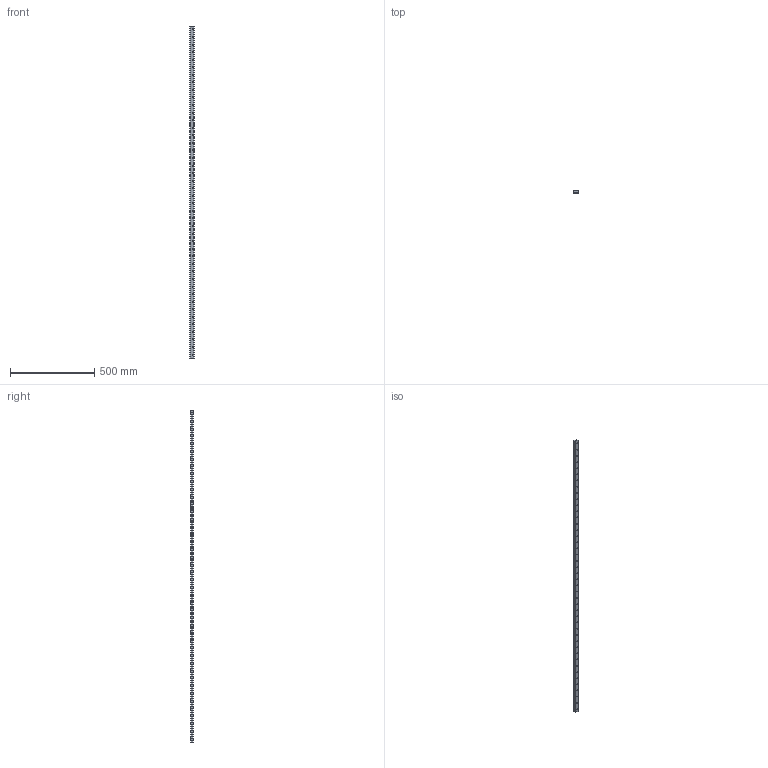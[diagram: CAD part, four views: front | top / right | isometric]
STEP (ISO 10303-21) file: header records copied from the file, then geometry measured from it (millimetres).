
FILE_DESCRIPTION(('STEP AP203'),'1');
FILE_NAME('track_ft2412l1976p3.stp','2022-07-04T01:31:59',('TraceParts'),('TraceParts S.A.'),'Spatial InterOp 3D',' ',' ');
FILE_SCHEMA(('CONFIG_CONTROL_DESIGN'));
Length unit declared in the file: millimetre
Products named in the file (1): 1
Bounding box: 24.4 x 12.4 x 1976 mm (x, y, z)
Volume: 570741.4 mm3; surface area: 154746.8 mm2
Topology: 1 solids, 1 shells, 230 faces, 552 edges, 368 vertices
Faces by surface type: cylinder 176, plane 54
Entity records: 7108 total; most frequent: DIRECTION 1366, CARTESIAN_POINT 1151, ORIENTED_EDGE 1104, AXIS2_PLACEMENT_3D 583, EDGE_CURVE 552, VERTEX_POINT 368, EDGE_LOOP 362, CIRCLE 352
